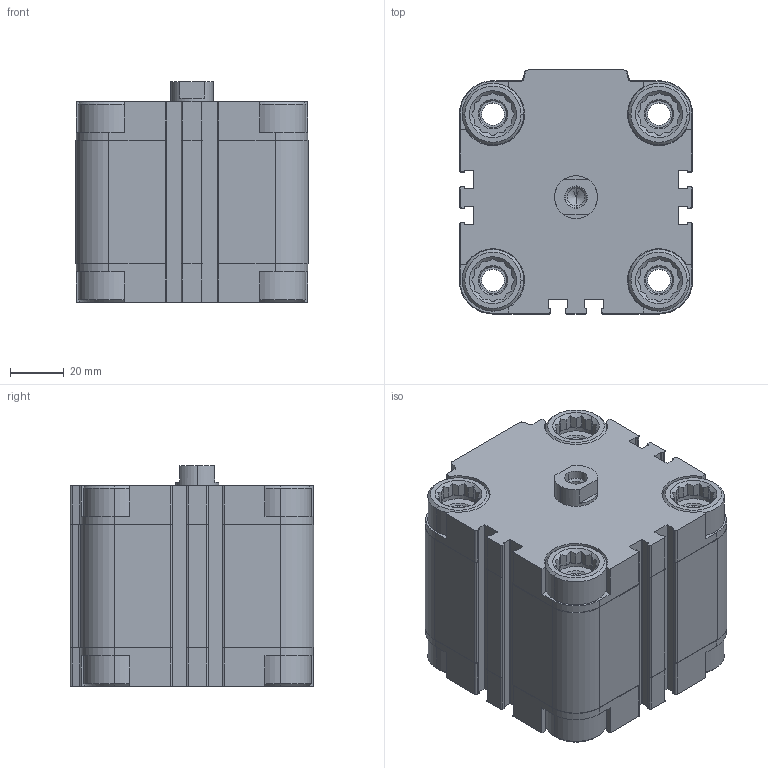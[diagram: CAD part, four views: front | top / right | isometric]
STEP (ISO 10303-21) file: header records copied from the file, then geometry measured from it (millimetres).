
FILE_DESCRIPTION (( 'STEP AP203' ), '1' );
FILE_NAME ('CDVU63-25F.STEP', '2020-03-30T15:01:40', ( '' ), ( '' ), 'SwSTEP 2.0', 'SolidWorks 2019', '' );
FILE_SCHEMA (( 'CONFIG_CONTROL_DESIGN' ));
Length unit declared in the file: millimetre
Products named in the file (1): CDVU63-25F
Bounding box: 87 x 91 x 82.5 mm (x, y, z)
Volume: 433812 mm3; surface area: 90616.7 mm2
Topology: 2 solids, 2 shells, 609 faces, 1634 edges, 1071 vertices
Faces by surface type: plane 365, cylinder 182, cone 62
Entity records: 19241 total; most frequent: CARTESIAN_POINT 3885, ORIENTED_EDGE 3256, DIRECTION 3096, EDGE_CURVE 1628, VERTEX_POINT 1071, AXIS2_PLACEMENT_3D 1050, LINE 996, VECTOR 996
